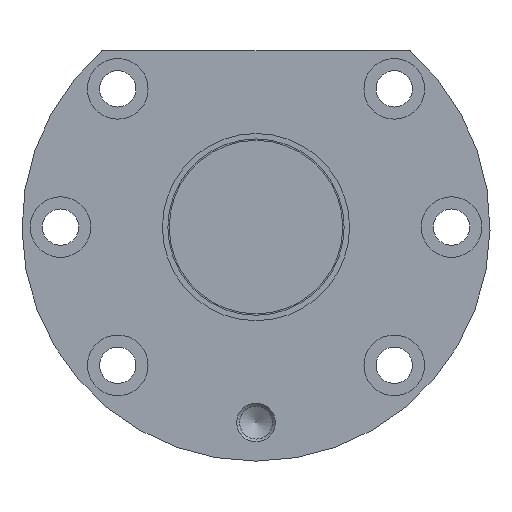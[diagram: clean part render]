
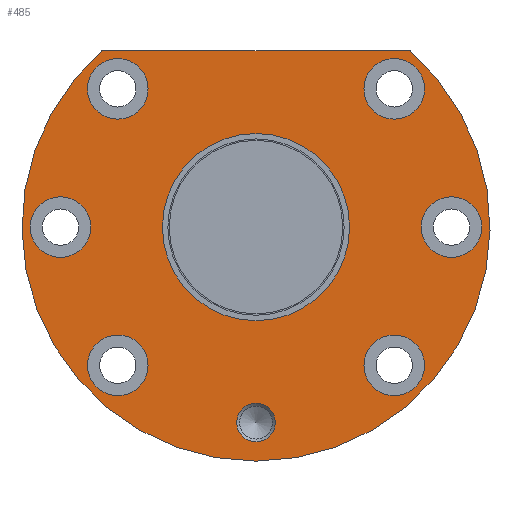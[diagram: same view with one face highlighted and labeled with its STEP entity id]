
A CAD part, left-side view. The second image highlights one B-rep face of the part: STEP entity #485.
In plain terms, the highlighted planar face has unit normal (-1, 0, 0).
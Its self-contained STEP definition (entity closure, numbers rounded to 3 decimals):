
#349=CARTESIAN_POINT('',(535.839,3.5,-35.5));
#350=VERTEX_POINT('',#349);
#351=CARTESIAN_POINT('',(535.839,0.,-35.5));
#352=DIRECTION('',(-1.0,0.0,0.0));
#353=DIRECTION('',(0.0,-1.0,0.0));
#354=AXIS2_PLACEMENT_3D('',#351,#352,#353);
#355=CIRCLE('',#354,3.5);
#356=EDGE_CURVE('',#350,#350,#355,.T.);
#381=CARTESIAN_POINT('',(535.839,23.,0.0));
#382=DIRECTION('',(-1.0,0.0,0.0));
#383=DIRECTION('',(0.0,0.0,1.0));
#384=AXIS2_PLACEMENT_3D('',#381,#382,#383);
#385=PLANE('',#384);
#386=CARTESIAN_POINT('',(535.839,27.969,32.));
#387=VERTEX_POINT('',#386);
#388=CARTESIAN_POINT('',(535.839,-27.969,32.));
#389=VERTEX_POINT('',#388);
#390=CARTESIAN_POINT('',(535.839,27.969,32.));
#391=DIRECTION('',(0.0,-1.0,0.0));
#392=VECTOR('',#391,55.937);
#393=LINE('',#390,#392);
#394=EDGE_CURVE('',#387,#389,#393,.T.);
#395=ORIENTED_EDGE('',*,*,#394,.F.);
#396=CARTESIAN_POINT('',(535.839,0.,0.0));
#397=DIRECTION('',(1.0,0.0,0.0));
#398=DIRECTION('',(0.0,1.0,0.0));
#399=AXIS2_PLACEMENT_3D('',#396,#397,#398);
#400=CIRCLE('',#399,42.5);
#401=EDGE_CURVE('',#389,#387,#400,.T.);
#402=ORIENTED_EDGE('',*,*,#401,.F.);
#403=EDGE_LOOP('',(#395,#402));
#404=FACE_OUTER_BOUND('',#403,.T.);
#405=CARTESIAN_POINT('',(535.839,17.,0.0));
#406=VERTEX_POINT('',#405);
#407=CARTESIAN_POINT('',(535.839,0.,0.0));
#408=DIRECTION('',(1.0,0.0,0.0));
#409=DIRECTION('',(0.0,1.0,0.0));
#410=AXIS2_PLACEMENT_3D('',#407,#408,#409);
#411=CIRCLE('',#410,17.);
#412=EDGE_CURVE('',#406,#406,#411,.T.);
#413=ORIENTED_EDGE('',*,*,#412,.T.);
#414=EDGE_LOOP('',(#413));
#415=FACE_BOUND('',#414,.T.);
#416=CARTESIAN_POINT('',(535.839,30.602,25.102));
#417=VERTEX_POINT('',#416);
#418=CARTESIAN_POINT('',(535.839,25.102,25.102));
#419=DIRECTION('',(1.0,0.0,0.0));
#420=DIRECTION('',(0.0,1.0,0.0));
#421=AXIS2_PLACEMENT_3D('',#418,#419,#420);
#422=CIRCLE('',#421,5.5);
#423=EDGE_CURVE('',#417,#417,#422,.T.);
#424=ORIENTED_EDGE('',*,*,#423,.T.);
#425=EDGE_LOOP('',(#424));
#426=FACE_BOUND('',#425,.T.);
#427=CARTESIAN_POINT('',(535.839,30.602,-25.102));
#428=VERTEX_POINT('',#427);
#429=CARTESIAN_POINT('',(535.839,25.102,-25.102));
#430=DIRECTION('',(1.0,0.0,0.0));
#431=DIRECTION('',(0.0,1.0,0.0));
#432=AXIS2_PLACEMENT_3D('',#429,#430,#431);
#433=CIRCLE('',#432,5.5);
#434=EDGE_CURVE('',#428,#428,#433,.T.);
#435=ORIENTED_EDGE('',*,*,#434,.T.);
#436=EDGE_LOOP('',(#435));
#437=FACE_BOUND('',#436,.T.);
#438=CARTESIAN_POINT('',(535.839,-30.0,0.));
#439=VERTEX_POINT('',#438);
#440=CARTESIAN_POINT('',(535.839,-35.5,0.));
#441=DIRECTION('',(1.0,0.0,0.0));
#442=DIRECTION('',(0.0,1.0,0.0));
#443=AXIS2_PLACEMENT_3D('',#440,#441,#442);
#444=CIRCLE('',#443,5.5);
#445=EDGE_CURVE('',#439,#439,#444,.T.);
#446=ORIENTED_EDGE('',*,*,#445,.T.);
#447=EDGE_LOOP('',(#446));
#448=FACE_BOUND('',#447,.T.);
#449=CARTESIAN_POINT('',(535.839,-19.602,25.102));
#450=VERTEX_POINT('',#449);
#451=CARTESIAN_POINT('',(535.839,-25.102,25.102));
#452=DIRECTION('',(1.0,0.0,0.0));
#453=DIRECTION('',(0.0,1.0,0.0));
#454=AXIS2_PLACEMENT_3D('',#451,#452,#453);
#455=CIRCLE('',#454,5.5);
#456=EDGE_CURVE('',#450,#450,#455,.T.);
#457=ORIENTED_EDGE('',*,*,#456,.T.);
#458=EDGE_LOOP('',(#457));
#459=FACE_BOUND('',#458,.T.);
#460=CARTESIAN_POINT('',(535.839,-19.602,-25.102));
#461=VERTEX_POINT('',#460);
#462=CARTESIAN_POINT('',(535.839,-25.102,-25.102));
#463=DIRECTION('',(1.0,0.0,0.0));
#464=DIRECTION('',(0.0,1.0,0.0));
#465=AXIS2_PLACEMENT_3D('',#462,#463,#464);
#466=CIRCLE('',#465,5.5);
#467=EDGE_CURVE('',#461,#461,#466,.T.);
#468=ORIENTED_EDGE('',*,*,#467,.T.);
#469=EDGE_LOOP('',(#468));
#470=FACE_BOUND('',#469,.T.);
#471=CARTESIAN_POINT('',(535.839,41.,0.));
#472=VERTEX_POINT('',#471);
#473=CARTESIAN_POINT('',(535.839,35.5,0.));
#474=DIRECTION('',(1.0,0.0,0.0));
#475=DIRECTION('',(0.0,1.0,0.0));
#476=AXIS2_PLACEMENT_3D('',#473,#474,#475);
#477=CIRCLE('',#476,5.5);
#478=EDGE_CURVE('',#472,#472,#477,.T.);
#479=ORIENTED_EDGE('',*,*,#478,.T.);
#480=EDGE_LOOP('',(#479));
#481=FACE_BOUND('',#480,.T.);
#482=ORIENTED_EDGE('',*,*,#356,.F.);
#483=EDGE_LOOP('',(#482));
#484=FACE_BOUND('',#483,.T.);
#485=ADVANCED_FACE('',(#404,#415,#426,#437,#448,#459,#470,#481,#484),#385,.T.);
